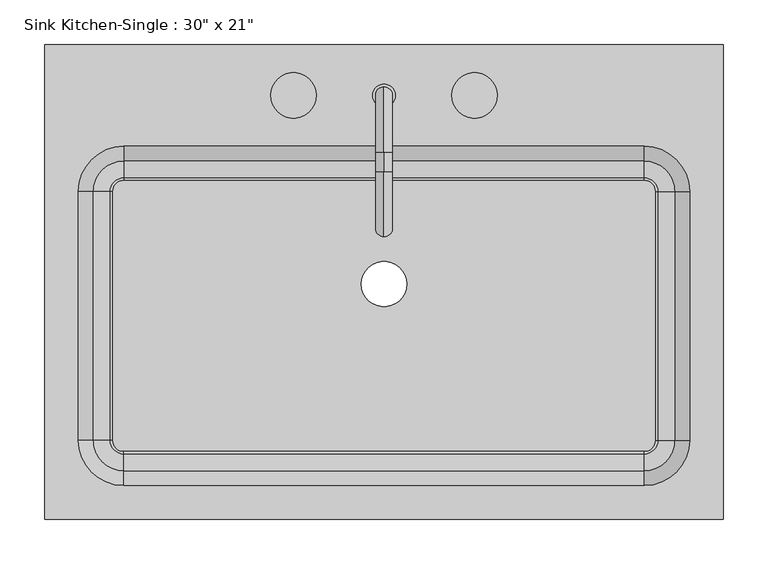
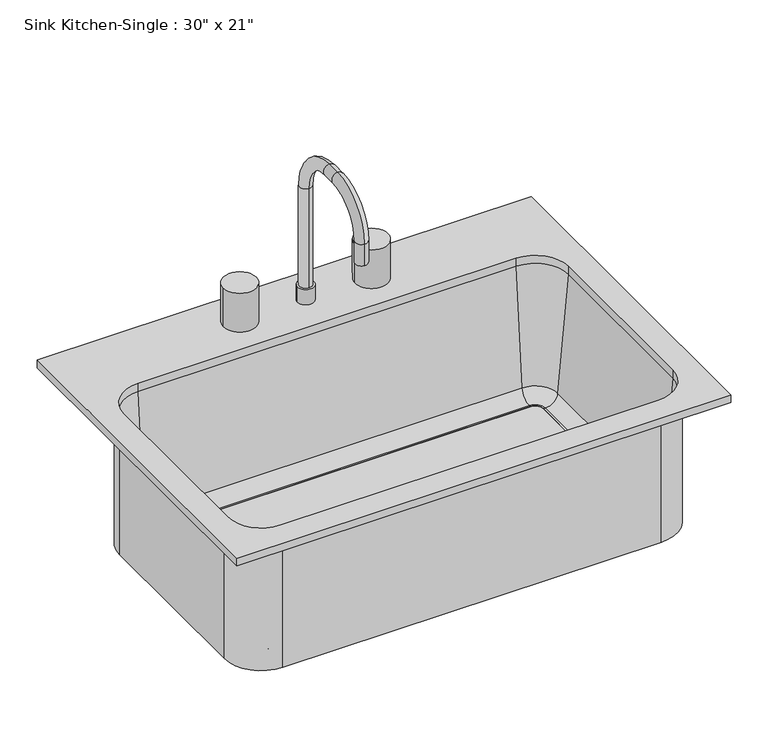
"""IFC4 building model written with IfcOpenShell, lengths in millimetres: flow terminal geometry."""

from ifc_helpers import new_model, si_unit, point, frame, frame_2d, origin, place, context, project, spatial, polyline, circle_curve, ellipse_curve, trimmed, segment, composite_curve, outline, extrude, source, transform, mapped, element, save
from ifc_brep_helpers import plane_surface, cylinder_surface, revolved_surface, advanced_brep


def flow_terminal_38af2918(model_context):
    return source(origin(), model_context, "Body", "SolidModel", [
        advanced_brep(
        [(396.6892406, 269.0454011, 927.1), (-365.3107594, 269.0454011, 927.1), (-365.3107594, -264.3545989, 927.1), (396.6892406, -264.3545989, 927.1), (307.7892406, 154.7454011, 927.1), (358.5892406, 103.9454011, 927.1), (358.5892406, -175.4545989, 927.1), (307.7892406, -226.2545989, 927.1), (-276.4107594, -226.2545989, 927.1), (-327.2107594, -175.4545989, 927.1), (-327.2107594, 103.9454011, 927.1), (-276.4107594, 154.7454011, 927.1), (396.6892406, 269.0454011, 914.4), (396.6892406, -264.3545989, 914.4), (-365.3107594, -264.3545989, 914.4), (-365.3107594, 269.0454011, 914.4), (364.9392406, 103.9454011, 914.4), (307.7892406, 161.0954011, 914.4), (-276.4107594, 161.0954011, 914.4), (-333.5607594, 103.9454011, 914.4), (-333.5607594, -175.4545989, 914.4), (-276.4107594, -232.6045989, 914.4), (307.7892406, -232.6045989, 914.4), (364.9392406, -175.4545989, 914.4), (307.7892406, 154.7454011, 914.4), (358.5892406, 103.9454011, 914.4), (358.5892406, -175.4545989, 914.4), (307.7892406, -226.2545989, 914.4), (-276.4107594, -226.2545989, 914.4), (-327.2107594, -175.4545989, 914.4), (-327.2107594, 103.9454011, 914.4), (-276.4107594, 154.7454011, 914.4), (364.9392406, 103.9454011, 698.5), (307.7892406, 161.0954011, 698.5), (320.4892406, 103.9454011, 698.5), (307.7892406, 116.6454011, 698.5), (320.4892406, 103.9454011, 708.025), (307.7892406, 116.6454011, 708.025), (323.0776588, 103.9454011, 708.025), (307.7892406, 119.2338193, 708.025), (342.0551678, 103.9454011, 725.4146831), (307.7892406, 138.2113283, 725.4146831), (364.9392406, -175.4545989, 698.5), (320.4892406, -175.4545989, 698.5), (320.4892406, -175.4545989, 708.025), (323.0776588, -175.4545989, 708.025), (342.0551678, -175.4545989, 725.4146831), (307.7892406, -232.6045989, 698.5), (307.7892406, -188.1545989, 698.5), (307.7892406, -188.1545989, 708.025), (307.7892406, -190.7430171, 708.025), (307.7892406, -209.7205261, 725.4146831), (-276.4107594, -232.6045989, 698.5), (-276.4107594, -188.1545989, 698.5), (-276.4107594, -188.1545989, 708.025), (-276.4107594, -190.7430171, 708.025), (-276.4107594, -209.7205261, 725.4146831), (-333.5607594, -175.4545989, 698.5), (-289.1107594, -175.4545989, 698.5), (-289.1107594, -175.4545989, 708.025), (-291.6991776, -175.4545989, 708.025), (-310.6766866, -175.4545989, 725.4146831), (-333.5607594, 103.9454011, 698.5), (-289.1107594, 103.9454011, 698.5), (-289.1107594, 103.9454011, 708.025), (-291.6991776, 103.9454011, 708.025), (-310.6766866, 103.9454011, 725.4146831), (-276.4107594, 161.0954011, 698.5), (-276.4107594, 116.6454011, 698.5), (-276.4107594, 116.6454011, 708.025), (-276.4107594, 119.2338193, 708.025), (-276.4107594, 138.2113283, 725.4146831)],
        [
            (0, 1),
            (1, 2),
            (2, 3),
            (3, 0),
            (4, 5, circle_curve(frame((307.7892406, 103.9454011, 927.1), z_axis=(0.0, 0.0, -1.0), x_axis=(1.0, 0.0, 0.0)), 50.8)),
            (5, 6),
            (6, 7, circle_curve(frame((307.7892406, -175.4545989, 927.1), z_axis=(0.0, 0.0, -1.0), x_axis=(1.0, 0.0, 0.0)), 50.8)),
            (7, 8),
            (8, 9, circle_curve(frame((-276.4107594, -175.4545989, 927.1), z_axis=(0.0, 0.0, -1.0), x_axis=(1.0, 0.0, 0.0)), 50.8)),
            (9, 10),
            (10, 11, circle_curve(frame((-276.4107594, 103.9454011, 927.1), z_axis=(0.0, 0.0, -1.0), x_axis=(1.0, 0.0, 0.0)), 50.8)),
            (11, 4),
            (12, 13),
            (13, 14),
            (14, 15),
            (15, 12),
            (16, 17, circle_curve(frame((307.7892406, 103.9454011, 914.4), z_axis=(0.0, 0.0, 1.0), x_axis=(0.0, 1.0, 0.0)), 57.15)),
            (17, 18),
            (18, 19, circle_curve(frame((-276.4107594, 103.9454011, 914.4), z_axis=(0.0, 0.0, 1.0), x_axis=(-1.0, 0.0, 0.0)), 57.15)),
            (19, 20),
            (20, 21, circle_curve(frame((-276.4107594, -175.4545989, 914.4), z_axis=(0.0, 0.0, 1.0), x_axis=(0.0, -1.0, 0.0)), 57.15)),
            (21, 22),
            (22, 23, circle_curve(frame((307.7892406, -175.4545989, 914.4), z_axis=(0.0, 0.0, 1.0), x_axis=(1.0, 0.0, 0.0)), 57.15)),
            (23, 16),
            (0, 12),
            (15, 1),
            (14, 2),
            (13, 3),
            (4, 24),
            (24, 25, circle_curve(frame((307.7892406, 103.9454011, 914.4), z_axis=(0.0, 0.0, -1.0), x_axis=(1.0, 0.0, 0.0)), 50.8)),
            (25, 5),
            (25, 26),
            (26, 6),
            (26, 27, circle_curve(frame((307.7892406, -175.4545989, 914.4), z_axis=(0.0, 0.0, -1.0), x_axis=(1.0, 0.0, 0.0)), 50.8)),
            (27, 7),
            (27, 28),
            (28, 8),
            (28, 29, circle_curve(frame((-276.4107594, -175.4545989, 914.4), z_axis=(0.0, 0.0, -1.0), x_axis=(1.0, 0.0, 0.0)), 50.8)),
            (29, 9),
            (29, 30),
            (30, 10),
            (30, 31, circle_curve(frame((-276.4107594, 103.9454011, 914.4), z_axis=(0.0, 0.0, -1.0), x_axis=(1.0, 0.0, 0.0)), 50.8)),
            (31, 11),
            (31, 24),
            (32, 33, circle_curve(frame((307.7892406, 103.9454011, 698.5), z_axis=(0.0, 0.0, 1.0), x_axis=(0.0, 1.0, 0.0)), 57.15)),
            (33, 17),
            (16, 32),
            (32, 34),
            (34, 35, circle_curve(frame((307.7892406, 103.9454011, 698.5), z_axis=(0.0, 0.0, 1.0), x_axis=(0.0, 1.0, 0.0)), 12.7)),
            (35, 33),
            (34, 36),
            (36, 37, circle_curve(frame((307.7892406, 103.9454011, 708.025), z_axis=(0.0, 0.0, 1.0), x_axis=(0.0, 1.0, 0.0)), 12.7)),
            (37, 35),
            (36, 38),
            (38, 39, circle_curve(frame((307.7892406, 103.9454011, 708.025), z_axis=(0.0, 0.0, 1.0), x_axis=(0.0, 1.0, 0.0)), 15.2884182)),
            (39, 37),
            (38, 40, circle_curve(frame((323.0776588, 103.9454011, 727.075), z_axis=(0.0, -1.0, 0.0), x_axis=(1.0, 0.0, 0.0)), 19.05)),
            (40, 41, circle_curve(frame((307.7892406, 103.9454011, 725.4146831), z_axis=(0.0, 0.0, 1.0), x_axis=(0.0, 1.0, 0.0)), 34.2659272)),
            (41, 39, circle_curve(frame((307.7892406, 119.2338193, 727.075), z_axis=(-1.0, 0.0, 0.0), x_axis=(0.0, 1.0, 0.0)), 19.05)),
            (40, 25),
            (24, 41),
            (23, 42),
            (42, 32),
            (42, 43),
            (43, 34),
            (43, 44),
            (44, 36),
            (44, 45),
            (45, 38),
            (45, 46, circle_curve(frame((323.0776588, -175.4545989, 727.075), z_axis=(0.0, -1.0, 0.0), x_axis=(1.0, 0.0, 0.0)), 19.05)),
            (46, 40),
            (46, 26),
            (22, 47),
            (47, 42, circle_curve(frame((307.7892406, -175.4545989, 698.5), z_axis=(0.0, 0.0, 1.0), x_axis=(1.0, 0.0, 0.0)), 57.15)),
            (47, 48),
            (48, 43, circle_curve(frame((307.7892406, -175.4545989, 698.5), z_axis=(0.0, 0.0, 1.0), x_axis=(1.0, 0.0, 0.0)), 12.7)),
            (48, 49),
            (49, 44, circle_curve(frame((307.7892406, -175.4545989, 708.025), z_axis=(0.0, 0.0, 1.0), x_axis=(1.0, 0.0, 0.0)), 12.7)),
            (49, 50),
            (50, 45, circle_curve(frame((307.7892406, -175.4545989, 708.025), z_axis=(0.0, 0.0, 1.0), x_axis=(1.0, 0.0, 0.0)), 15.2884182)),
            (50, 51, circle_curve(frame((307.7892406, -190.7430171, 727.075), z_axis=(-1.0, 0.0, 0.0), x_axis=(0.0, -1.0, 0.0)), 19.05)),
            (51, 46, circle_curve(frame((307.7892406, -175.4545989, 725.4146831), z_axis=(0.0, 0.0, 1.0), x_axis=(1.0, 0.0, 0.0)), 34.2659272)),
            (51, 27),
            (21, 52),
            (52, 47),
            (52, 53),
            (53, 48),
            (53, 54),
            (54, 49),
            (54, 55),
            (55, 50),
            (55, 56, circle_curve(frame((-276.4107594, -190.7430171, 727.075), z_axis=(-1.0, 0.0, 0.0), x_axis=(0.0, -1.0, 0.0)), 19.05)),
            (56, 51),
            (56, 28),
            (20, 57),
            (57, 52, circle_curve(frame((-276.4107594, -175.4545989, 698.5), z_axis=(0.0, 0.0, 1.0), x_axis=(0.0, -1.0, 0.0)), 57.15)),
            (57, 58),
            (58, 53, circle_curve(frame((-276.4107594, -175.4545989, 698.5), z_axis=(0.0, 0.0, 1.0), x_axis=(0.0, -1.0, 0.0)), 12.7)),
            (58, 59),
            (59, 54, circle_curve(frame((-276.4107594, -175.4545989, 708.025), z_axis=(0.0, 0.0, 1.0), x_axis=(0.0, -1.0, 0.0)), 12.7)),
            (59, 60),
            (60, 55, circle_curve(frame((-276.4107594, -175.4545989, 708.025), z_axis=(0.0, 0.0, 1.0), x_axis=(0.0, -1.0, 0.0)), 15.2884182)),
            (60, 61, circle_curve(frame((-291.6991776, -175.4545989, 727.075), z_axis=(0.0, 1.0, 0.0), x_axis=(-1.0, 0.0, 0.0)), 19.05)),
            (61, 56, circle_curve(frame((-276.4107594, -175.4545989, 725.4146831), z_axis=(0.0, 0.0, 1.0), x_axis=(0.0, -1.0, 0.0)), 34.2659272)),
            (61, 29),
            (19, 62),
            (62, 57),
            (62, 63),
            (63, 58),
            (63, 64),
            (64, 59),
            (64, 65),
            (65, 60),
            (65, 66, circle_curve(frame((-291.6991776, 103.9454011, 727.075), z_axis=(0.0, 1.0, 0.0), x_axis=(-1.0, 0.0, 0.0)), 19.05)),
            (66, 61),
            (66, 30),
            (18, 67),
            (67, 62, circle_curve(frame((-276.4107594, 103.9454011, 698.5), z_axis=(0.0, 0.0, 1.0), x_axis=(-1.0, 0.0, 0.0)), 57.15)),
            (67, 68),
            (68, 63, circle_curve(frame((-276.4107594, 103.9454011, 698.5), z_axis=(0.0, 0.0, 1.0), x_axis=(-1.0, 0.0, 0.0)), 12.7)),
            (68, 69),
            (69, 64, circle_curve(frame((-276.4107594, 103.9454011, 708.025), z_axis=(0.0, 0.0, 1.0), x_axis=(-1.0, 0.0, 0.0)), 12.7)),
            (69, 70),
            (70, 65, circle_curve(frame((-276.4107594, 103.9454011, 708.025), z_axis=(0.0, 0.0, 1.0), x_axis=(-1.0, 0.0, 0.0)), 15.2884182)),
            (70, 71, circle_curve(frame((-276.4107594, 119.2338193, 727.075), z_axis=(1.0, 0.0, 0.0), x_axis=(0.0, 1.0, 0.0)), 19.05)),
            (71, 66, circle_curve(frame((-276.4107594, 103.9454011, 725.4146831), z_axis=(0.0, 0.0, 1.0), x_axis=(-1.0, 0.0, 0.0)), 34.2659272)),
            (71, 31),
            (33, 67),
            (35, 68),
            (37, 69),
            (39, 70),
            (41, 71),
        ],
        [
            plane_surface(frame((-365.3107594, 269.0454011, 927.1), z_axis=(0.0, 0.0, 1.0), x_axis=(-1.0, 0.0, 0.0))),
            plane_surface(frame((-365.3107594, 269.0454011, 914.4), z_axis=(0.0, 0.0, -1.0), x_axis=(1.0, 0.0, 0.0))),
            plane_surface(frame((396.6892406, 269.0454011, 927.1), z_axis=(0.0, 1.0, 0.0), x_axis=(0.0, 0.0, -1.0))),
            plane_surface(frame((-365.3107594, 269.0454011, 927.1), z_axis=(-1.0, 0.0, 0.0), x_axis=(0.0, 0.0, -1.0))),
            plane_surface(frame((-365.3107594, -264.3545989, 927.1), z_axis=(0.0, -1.0, 0.0), x_axis=(0.0, 0.0, -1.0))),
            plane_surface(frame((396.6892406, -264.3545989, 927.1), z_axis=(1.0, 0.0, 0.0), x_axis=(0.0, 0.0, -1.0))),
            revolved_surface(polyline([(358.58924060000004, 103.9454011, 914.4), (358.58924060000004, 103.9454011, 927.1)]), (307.7892406, 103.9454011, 0.0), (0.0, 0.0, -1.0)),
            plane_surface(frame((358.5892406, 103.9454011, 927.1), z_axis=(-1.0, 0.0, 0.0), x_axis=(0.0, 0.0, -1.0))),
            revolved_surface(polyline([(358.58924060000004, -175.4545989, 914.4), (358.58924060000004, -175.4545989, 927.1)]), (307.7892406, -175.4545989, 0.0), (0.0, 0.0, -1.0)),
            plane_surface(frame((307.7892406, -226.2545989, 927.1), z_axis=(0.0, 1.0, 0.0), x_axis=(0.0, 0.0, -1.0))),
            revolved_surface(polyline([(-225.6107594, -175.4545989, 914.4), (-225.6107594, -175.4545989, 927.1)]), (-276.4107594, -175.4545989, 0.0), (0.0, 0.0, -1.0)),
            plane_surface(frame((-327.2107594, -175.4545989, 927.1), z_axis=(1.0, 0.0, 0.0), x_axis=(0.0, 0.0, -1.0))),
            revolved_surface(polyline([(-225.6107594, 103.9454011, 914.4), (-225.6107594, 103.9454011, 927.1)]), (-276.4107594, 103.9454011, 0.0), (0.0, 0.0, -1.0)),
            plane_surface(frame((-276.4107594, 154.7454011, 927.1), z_axis=(0.0, -1.0, 0.0), x_axis=(0.0, 0.0, -1.0))),
            cylinder_surface(frame((307.7892406, 103.9454011, 0.0), z_axis=(0.0, 0.0, -1.0), x_axis=(0.0, 1.0, 0.0)), 57.15),
            plane_surface(frame((307.7892406, 103.9454011, 698.5), z_axis=(0.0, 0.0, -1.0), x_axis=(0.0, 1.0, 0.0))),
            revolved_surface(polyline([(307.7892406, 116.6454011, 698.5), (307.7892406, 116.6454011, 708.025)]), (307.7892406, 103.9454011, 0.0), (0.0, 0.0, -1.0)),
            plane_surface(frame((307.7892406, 103.9454011, 708.025), z_axis=(0.0, 0.0, 1.0), x_axis=(0.0, 1.0, 0.0))),
            revolved_surface(trimmed(ellipse_curve(frame((307.7892406, 119.2338193, 727.075), z_axis=(1.0, 0.0, 0.0), x_axis=(0.0, 1.0, 0.0)), 19.05, 19.05), [point((307.7892406, 119.2338193, 708.025))], [point((307.7892406, 138.2113283, 725.4146831))], True, "CARTESIAN"), (307.7892406, 103.9454011, 0.0), (0.0, 0.0, -1.0)),
            revolved_surface(polyline([(307.7892406, 138.2113283, 725.4146831), (307.7892406, 154.7454011, 914.4)]), (307.7892406, 103.9454011, 0.0), (0.0, 0.0, -1.0)),
            plane_surface(frame((364.9392406, 103.9454011, 914.4), z_axis=(1.0, 0.0, 0.0), x_axis=(0.0, -1.0, 0.0))),
            plane_surface(frame((364.9392406, 103.9454011, 698.5), z_axis=(0.0, 0.0, -1.0), x_axis=(0.0, -1.0, 0.0))),
            plane_surface(frame((320.4892406, 103.9454011, 698.5), z_axis=(-1.0, 0.0, 0.0), x_axis=(0.0, -1.0, 0.0))),
            plane_surface(frame((320.4892406, 103.9454011, 708.025), z_axis=(0.0, 0.0, 1.0), x_axis=(0.0, -1.0, 0.0))),
            revolved_surface(polyline([(342.1276588, -175.45459889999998, 727.075), (342.1276588, 103.9454011, 727.075)]), (323.0776588, 103.9454011, 727.075), (0.0, -1.0, 0.0)),
            plane_surface(frame((342.0551678, 103.9454011, 725.4146831), z_axis=(-0.9961946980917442, 0.0, 0.08715574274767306), x_axis=(0.0, -1.0, 0.0))),
            cylinder_surface(frame((307.7892406, -175.4545989, 0.0), z_axis=(0.0, 0.0, -1.0), x_axis=(1.0, 0.0, 0.0)), 57.15),
            plane_surface(frame((307.7892406, -175.4545989, 698.5), z_axis=(0.0, 0.0, -1.0), x_axis=(1.0, 0.0, 0.0))),
            revolved_surface(polyline([(320.4892406, -175.4545989, 698.5), (320.4892406, -175.4545989, 708.025)]), (307.7892406, -175.4545989, 0.0), (0.0, 0.0, -1.0)),
            plane_surface(frame((307.7892406, -175.4545989, 708.025), z_axis=(0.0, 0.0, 1.0), x_axis=(1.0, 0.0, 0.0))),
            revolved_surface(trimmed(ellipse_curve(frame((323.0776588, -175.4545989, 727.075), z_axis=(0.0, -1.0, 0.0), x_axis=(1.0, 0.0, 0.0)), 19.05, 19.05), [point((323.0776588, -175.4545989, 708.025))], [point((342.0551678, -175.4545989, 725.4146831))], True, "CARTESIAN"), (307.7892406, -175.4545989, 0.0), (0.0, 0.0, -1.0)),
            revolved_surface(polyline([(342.0551678, -175.4545989, 725.4146831), (358.5892406, -175.4545989, 914.4)]), (307.7892406, -175.4545989, 0.0), (0.0, 0.0, -1.0)),
            plane_surface(frame((307.7892406, -232.6045989, 914.4), z_axis=(0.0, -1.0, 0.0), x_axis=(-1.0, 0.0, 0.0))),
            plane_surface(frame((307.7892406, -232.6045989, 698.5), z_axis=(0.0, 0.0, -1.0), x_axis=(-1.0, 0.0, 0.0))),
            plane_surface(frame((307.7892406, -188.1545989, 698.5), z_axis=(0.0, 1.0, 0.0), x_axis=(-1.0, 0.0, 0.0))),
            plane_surface(frame((307.7892406, -188.1545989, 708.025), z_axis=(0.0, 0.0, 1.0), x_axis=(-1.0, 0.0, 0.0))),
            revolved_surface(polyline([(-276.4107594, -209.79301710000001, 727.075), (307.7892406, -209.79301710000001, 727.075)]), (307.7892406, -190.7430171, 727.075), (-1.0, 0.0, 0.0)),
            plane_surface(frame((307.7892406, -209.7205261, 725.4146831), z_axis=(0.0, 0.9961946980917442, 0.08715574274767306), x_axis=(-1.0, 0.0, 0.0))),
            cylinder_surface(frame((-276.4107594, -175.4545989, 0.0), z_axis=(0.0, 0.0, -1.0), x_axis=(0.0, -1.0, 0.0)), 57.15),
            plane_surface(frame((-276.4107594, -175.4545989, 698.5), z_axis=(0.0, 0.0, -1.0), x_axis=(0.0, -1.0, 0.0))),
            revolved_surface(polyline([(-276.4107594, -188.1545989, 698.5), (-276.4107594, -188.1545989, 708.025)]), (-276.4107594, -175.4545989, 0.0), (0.0, 0.0, -1.0)),
            plane_surface(frame((-276.4107594, -175.4545989, 708.025), z_axis=(0.0, 0.0, 1.0), x_axis=(0.0, -1.0, 0.0))),
            revolved_surface(trimmed(ellipse_curve(frame((-276.4107594, -190.7430171, 727.075), z_axis=(-1.0, 0.0, 0.0), x_axis=(0.0, -1.0, 0.0)), 19.05, 19.05), [point((-276.4107594, -190.7430171, 708.025))], [point((-276.4107594, -209.7205261, 725.4146831))], True, "CARTESIAN"), (-276.4107594, -175.4545989, 0.0), (0.0, 0.0, -1.0)),
            revolved_surface(polyline([(-276.4107594, -209.7205261, 725.4146831), (-276.4107594, -226.2545989, 914.4)]), (-276.4107594, -175.4545989, 0.0), (0.0, 0.0, -1.0)),
            plane_surface(frame((-333.5607594, -175.4545989, 914.4), z_axis=(-1.0, 0.0, 0.0), x_axis=(0.0, 1.0, 0.0))),
            plane_surface(frame((-333.5607594, -175.4545989, 698.5), z_axis=(0.0, 0.0, -1.0), x_axis=(0.0, 1.0, 0.0))),
            plane_surface(frame((-289.1107594, -175.4545989, 698.5), z_axis=(1.0, 0.0, 0.0), x_axis=(0.0, 1.0, 0.0))),
            plane_surface(frame((-289.1107594, -175.4545989, 708.025), z_axis=(0.0, 0.0, 1.0), x_axis=(0.0, 1.0, 0.0))),
            revolved_surface(polyline([(-310.7491776, 103.94540109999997, 727.075), (-310.7491776, -175.4545989, 727.075)]), (-291.6991776, -175.4545989, 727.075), (0.0, 1.0, 0.0)),
            plane_surface(frame((-310.6766866, -175.4545989, 725.4146831), z_axis=(0.9961946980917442, 0.0, 0.08715574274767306), x_axis=(0.0, 1.0, 0.0))),
            cylinder_surface(frame((-276.4107594, 103.9454011, 0.0), z_axis=(0.0, 0.0, -1.0), x_axis=(-1.0, 0.0, 0.0)), 57.15),
            plane_surface(frame((-276.4107594, 103.9454011, 698.5), z_axis=(0.0, 0.0, -1.0), x_axis=(-1.0, 0.0, 0.0))),
            revolved_surface(polyline([(-289.1107594, 103.9454011, 698.5), (-289.1107594, 103.9454011, 708.025)]), (-276.4107594, 103.9454011, 0.0), (0.0, 0.0, -1.0)),
            plane_surface(frame((-276.4107594, 103.9454011, 708.025), z_axis=(0.0, 0.0, 1.0), x_axis=(-1.0, 0.0, 0.0))),
            revolved_surface(trimmed(ellipse_curve(frame((-291.6991776, 103.9454011, 727.075), z_axis=(0.0, 1.0, 0.0), x_axis=(-1.0, 0.0, 0.0)), 19.05, 19.05), [point((-291.6991776, 103.9454011, 708.025))], [point((-310.6766866, 103.9454011, 725.4146831))], True, "CARTESIAN"), (-276.4107594, 103.9454011, 0.0), (0.0, 0.0, -1.0)),
            revolved_surface(polyline([(-310.6766866, 103.9454011, 725.4146831), (-327.2107594, 103.9454011, 914.4)]), (-276.4107594, 103.9454011, 0.0), (0.0, 0.0, -1.0)),
            plane_surface(frame((-276.4107594, 161.0954011, 914.4), z_axis=(0.0, 1.0, 0.0), x_axis=(1.0, 0.0, 0.0))),
            plane_surface(frame((-276.4107594, 161.0954011, 698.5), z_axis=(0.0, 0.0, -1.0), x_axis=(1.0, 0.0, 0.0))),
            plane_surface(frame((-276.4107594, 116.6454011, 698.5), z_axis=(0.0, -1.0, 0.0), x_axis=(1.0, 0.0, 0.0))),
            plane_surface(frame((-276.4107594, 116.6454011, 708.025), z_axis=(0.0, 0.0, 1.0), x_axis=(1.0, 0.0, 0.0))),
            revolved_surface(polyline([(307.7892406, 138.2838193, 727.075), (-276.4107594, 138.2838193, 727.075)]), (-276.4107594, 119.2338193, 727.075), (1.0, 0.0, 0.0)),
            plane_surface(frame((-276.4107594, 138.2113283, 725.4146831), z_axis=(0.0, -0.9961946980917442, 0.08715574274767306), x_axis=(1.0, 0.0, 0.0))),
        ],
        [
            (0, [[1, 2, 3, 4], [5, 6, 7, 8, 9, 10, 11, 12]]),
            (1, [[13, 14, 15, 16], [17, 18, 19, 20, 21, 22, 23, 24]]),
            (2, [[-1, 25, -16, 26]]),
            (3, [[-2, -26, -15, 27]]),
            (4, [[-3, -27, -14, 28]]),
            (5, [[-4, -28, -13, -25]]),
            (6, [[-5, 29, 30, 31]]),
            (7, [[-6, -31, 32, 33]]),
            (8, [[-7, -33, 34, 35]]),
            (9, [[-8, -35, 36, 37]]),
            (10, [[-9, -37, 38, 39]]),
            (11, [[-10, -39, 40, 41]]),
            (12, [[-11, -41, 42, 43]]),
            (13, [[-12, -43, 44, -29]]),
            (14, [[45, 46, -17, 47]]),
            (15, [[-45, 48, 49, 50]]),
            (16, [[-49, 51, 52, 53]]),
            (17, [[-52, 54, 55, 56]]),
            (18, [[-55, 57, 58, 59]]),
            (19, [[-58, 60, -30, 61]]),
            (20, [[-47, -24, 62, 63]]),
            (21, [[-48, -63, 64, 65]]),
            (22, [[-51, -65, 66, 67]]),
            (23, [[-54, -67, 68, 69]]),
            (24, [[-57, -69, 70, 71]]),
            (25, [[-60, -71, 72, -32]]),
            (26, [[-62, -23, 73, 74]]),
            (27, [[-64, -74, 75, 76]]),
            (28, [[-66, -76, 77, 78]]),
            (29, [[-68, -78, 79, 80]]),
            (30, [[-70, -80, 81, 82]]),
            (31, [[-72, -82, 83, -34]]),
            (32, [[-73, -22, 84, 85]]),
            (33, [[-75, -85, 86, 87]]),
            (34, [[-77, -87, 88, 89]]),
            (35, [[-79, -89, 90, 91]]),
            (36, [[-81, -91, 92, 93]]),
            (37, [[-83, -93, 94, -36]]),
            (38, [[-84, -21, 95, 96]]),
            (39, [[-86, -96, 97, 98]]),
            (40, [[-88, -98, 99, 100]]),
            (41, [[-90, -100, 101, 102]]),
            (42, [[-92, -102, 103, 104]]),
            (43, [[-94, -104, 105, -38]]),
            (44, [[-95, -20, 106, 107]]),
            (45, [[-97, -107, 108, 109]]),
            (46, [[-99, -109, 110, 111]]),
            (47, [[-101, -111, 112, 113]]),
            (48, [[-103, -113, 114, 115]]),
            (49, [[-105, -115, 116, -40]]),
            (50, [[-106, -19, 117, 118]]),
            (51, [[-108, -118, 119, 120]]),
            (52, [[-110, -120, 121, 122]]),
            (53, [[-112, -122, 123, 124]]),
            (54, [[-114, -124, 125, 126]]),
            (55, [[-116, -126, 127, -42]]),
            (56, [[-46, 128, -117, -18]]),
            (57, [[-50, 129, -119, -128]]),
            (58, [[-53, 130, -121, -129]]),
            (59, [[-56, 131, -123, -130]]),
            (60, [[-59, 132, -125, -131]]),
            (61, [[-61, -44, -127, -132]]),
        ],
    ),
        advanced_brep(
        [(2.9892406, 211.8954011, 927.1), (28.3892406, 211.8954011, 927.1), (15.6892406, 221.4204011, 1114.425), (15.6892406, 202.3704011, 1114.425), (15.6892406, 202.3704011, 952.5), (15.6892406, 221.4204011, 952.5), (15.6892406, 148.3954011, 1187.45), (15.6892406, 148.3954011, 1168.4), (15.6892406, 126.1704011, 1187.45), (15.6892406, 126.1704011, 1168.4), (15.6892406, 53.1454011, 1114.425), (15.6892406, 72.1954011, 1114.425), (15.6892406, 53.1454011, 1079.5), (15.6892406, 72.1954011, 1079.5), (2.9892406, 211.8954011, 952.5), (28.3892406, 211.8954011, 952.5)],
        [
            (0, 1, circle_curve(frame((15.6892406, 211.8954011, 927.1), z_axis=(0.0, 0.0, -1.0), x_axis=(1.0, 0.0, 0.0)), 12.7)),
            (1, 0, circle_curve(frame((15.6892406, 211.8954011, 927.1), z_axis=(0.0, 0.0, -1.0), x_axis=(1.0, 0.0, 0.0)), 12.7)),
            (2, 3, circle_curve(frame((15.6892406, 211.8954011, 1114.425), z_axis=(0.0, 0.0, -1.0), x_axis=(0.0, -1.0, 0.0)), 9.525)),
            (3, 4),
            (4, 5, circle_curve(frame((15.6892406, 211.8954011, 952.5), z_axis=(0.0, 0.0, 1.0), x_axis=(0.0, -1.0, 0.0)), 9.525)),
            (5, 2),
            (3, 2, circle_curve(frame((15.6892406, 211.8954011, 1114.425), z_axis=(0.0, 0.0, -1.0), x_axis=(0.0, -1.0, 0.0)), 9.525)),
            (5, 4, circle_curve(frame((15.6892406, 211.8954011, 952.5), z_axis=(0.0, 0.0, 1.0), x_axis=(0.0, -1.0, 0.0)), 9.525)),
            (2, 6, circle_curve(frame((15.6892406, 148.3954011, 1114.425), z_axis=(1.0, 0.0, 0.0), x_axis=(0.0, 1.0, 0.0)), 73.025)),
            (6, 7, circle_curve(frame((15.6892406, 148.3954011, 1177.925), z_axis=(0.0, 1.0, 0.0), x_axis=(0.0, 0.0, -1.0)), 9.525)),
            (7, 3, circle_curve(frame((15.6892406, 148.3954011, 1114.425), z_axis=(-1.0, 0.0, 0.0), x_axis=(0.0, 1.0, 0.0)), 53.975)),
            (7, 6, circle_curve(frame((15.6892406, 148.3954011, 1177.925), z_axis=(0.0, 1.0, 0.0), x_axis=(0.0, 0.0, -1.0)), 9.525)),
            (6, 8),
            (8, 9, circle_curve(frame((15.6892406, 126.1704011, 1177.925), z_axis=(0.0, 1.0, 0.0), x_axis=(0.0, 0.0, -1.0)), 9.525)),
            (9, 7),
            (9, 8, circle_curve(frame((15.6892406, 126.1704011, 1177.925), z_axis=(0.0, 1.0, 0.0), x_axis=(0.0, 0.0, -1.0)), 9.525)),
            (8, 10, circle_curve(frame((15.6892406, 126.1704011, 1114.425), z_axis=(1.0, 0.0, 0.0), x_axis=(0.0, 0.0, 1.0)), 73.025)),
            (10, 11, circle_curve(frame((15.6892406, 62.6704011, 1114.425), z_axis=(0.0, 0.0, 1.0), x_axis=(0.0, 1.0, 0.0)), 9.525)),
            (11, 9, circle_curve(frame((15.6892406, 126.1704011, 1114.425), z_axis=(-1.0, 0.0, 0.0), x_axis=(0.0, 0.0, 1.0)), 53.975)),
            (11, 10, circle_curve(frame((15.6892406, 62.6704011, 1114.425), z_axis=(0.0, 0.0, 1.0), x_axis=(0.0, 1.0, 0.0)), 9.525)),
            (12, 13, circle_curve(frame((15.6892406, 62.6704011, 1079.5), z_axis=(0.0, 0.0, -1.0), x_axis=(0.0, 1.0, 0.0)), 9.525)),
            (13, 12, circle_curve(frame((15.6892406, 62.6704011, 1079.5), z_axis=(0.0, 0.0, -1.0), x_axis=(0.0, 1.0, 0.0)), 9.525)),
            (10, 12),
            (13, 11),
            (14, 15, circle_curve(frame((15.6892406, 211.8954011, 952.5), z_axis=(0.0, 0.0, 1.0), x_axis=(1.0, 0.0, 0.0)), 12.7)),
            (15, 14, circle_curve(frame((15.6892406, 211.8954011, 952.5), z_axis=(0.0, 0.0, 1.0), x_axis=(1.0, 0.0, 0.0)), 12.7)),
            (14, 0),
            (1, 15),
        ],
        [
            plane_surface(frame((15.6892406, 202.3704011, 927.1), z_axis=(0.0, 0.0, -1.0), x_axis=(1.0, 0.0, 0.0))),
            cylinder_surface(frame((15.6892406, 211.8954011, 927.1), z_axis=(0.0, 0.0, -1.0), x_axis=(0.0, -1.0, 0.0)), 9.525),
            revolved_surface(trimmed(ellipse_curve(frame((15.6892406, 211.8954011, 1114.425), z_axis=(0.0, 0.0, -1.0), x_axis=(0.0, -1.0, 0.0)), 9.525, 9.525), [point((15.6892406, 221.4204011, 1114.425))], [point((15.6892406, 202.3704011, 1114.425))], True, "CARTESIAN"), (15.6892406, 148.3954011, 1114.425), (1.0, 0.0, 0.0)),
            revolved_surface(trimmed(ellipse_curve(frame((15.6892406, 211.8954011, 1114.425), z_axis=(0.0, 0.0, -1.0), x_axis=(0.0, -1.0, 0.0)), 9.525, 9.525), [point((15.6892406, 202.3704011, 1114.425))], [point((15.6892406, 221.4204011, 1114.425))], True, "CARTESIAN"), (15.6892406, 148.3954011, 1114.425), (1.0, 0.0, 0.0)),
            cylinder_surface(frame((15.6892406, 148.3954011, 1177.925), z_axis=(0.0, 1.0, 0.0), x_axis=(0.0, 0.0, -1.0)), 9.525),
            revolved_surface(trimmed(ellipse_curve(frame((15.6892406, 126.1704011, 1177.925), z_axis=(0.0, 1.0, 0.0), x_axis=(0.0, 0.0, -1.0)), 9.525, 9.525), [point((15.6892406, 126.1704011, 1187.45))], [point((15.6892406, 126.1704011, 1168.4))], True, "CARTESIAN"), (15.6892406, 126.1704011, 1114.425), (1.0, 0.0, 0.0)),
            revolved_surface(trimmed(ellipse_curve(frame((15.6892406, 126.1704011, 1177.925), z_axis=(0.0, 1.0, 0.0), x_axis=(0.0, 0.0, -1.0)), 9.525, 9.525), [point((15.6892406, 126.1704011, 1168.4))], [point((15.6892406, 126.1704011, 1187.45))], True, "CARTESIAN"), (15.6892406, 126.1704011, 1114.425), (1.0, 0.0, 0.0)),
            plane_surface(frame((15.6892406, 53.1454011, 1079.5), z_axis=(0.0, 0.0, -1.0), x_axis=(-1.0, 0.0, 0.0))),
            cylinder_surface(frame((15.6892406, 62.6704011, 1114.425), z_axis=(0.0, 0.0, 1.0), x_axis=(0.0, 1.0, 0.0)), 9.525),
            plane_surface(frame((28.3892406, 211.8954011, 952.5), z_axis=(0.0, 0.0, 1.0), x_axis=(0.0, 1.0, 0.0))),
            cylinder_surface(frame((15.6892406, 211.8954011, 927.1), z_axis=(0.0, 0.0, 1.0), x_axis=(1.0, 0.0, 0.0)), 12.7),
        ],
        [
            (0, [[1, 2]]),
            (1, [[3, 4, 5, 6]]),
            (1, [[7, -6, 8, -4]]),
            (2, [[-3, 9, 10, 11]]),
            (3, [[-7, -11, 12, -9]]),
            (4, [[-10, 13, 14, 15]]),
            (4, [[-12, -15, 16, -13]]),
            (5, [[-14, 17, 18, 19]]),
            (6, [[-16, -19, 20, -17]]),
            (7, [[21, 22]]),
            (8, [[-18, 23, -22, 24]]),
            (8, [[-20, -24, -21, -23]]),
            (9, [[25, 26], [-5, -8]]),
            (10, [[-25, 27, -2, 28]]),
            (10, [[-26, -28, -1, -27]]),
        ],
    ),
        extrude(outline(composite_curve([segment(trimmed(circle_curve(frame_2d((-85.9107594, 211.8954011)), 25.4), [point((-111.3107594, 211.8954011))], [point((-60.5107594, 211.8954011))], False, "CARTESIAN"), True, "CONTINUOUS"), segment(trimmed(circle_curve(frame_2d((-85.9107594, 211.8954011)), 25.4), [point((-60.5107594, 211.8954011))], [point((-111.3107594, 211.8954011))], False, "CARTESIAN"), True, "CONTINUOUS")], self_intersect=False)), frame((0.0, 0.0, 927.1), z_axis=(0.0, 0.0, 1.0), x_axis=(1.0, 0.0, 0.0)), (0.0, 0.0, 1.0), 63.5),
        extrude(outline(composite_curve([segment(trimmed(circle_curve(frame_2d((117.2892406, 211.8954011)), 25.4), [point((91.8892406, 211.8954011))], [point((142.6892406, 211.8954011))], False, "CARTESIAN"), True, "CONTINUOUS"), segment(trimmed(circle_curve(frame_2d((117.2892406, 211.8954011)), 25.4), [point((142.6892406, 211.8954011))], [point((91.8892406, 211.8954011))], False, "CARTESIAN"), True, "CONTINUOUS")], self_intersect=False)), frame((0.0, 0.0, 927.1), z_axis=(0.0, 0.0, 1.0), x_axis=(1.0, 0.0, 0.0)), (0.0, 0.0, 1.0), 63.5),
        extrude(outline(composite_curve([segment(trimmed(circle_curve(frame_2d((307.7892406, 103.9454011)), 12.7), [point((307.7892406, 116.6454011))], [point((320.4892406, 103.9454011))], False, "CARTESIAN"), True, "CONTINUOUS"), segment(polyline([(320.4892406, 103.9454011), (320.4892406, -175.4545989)]), True, "CONTINUOUS"), segment(trimmed(circle_curve(frame_2d((307.7892406, -175.4545989)), 12.7), [point((320.4892406, -175.4545989))], [point((307.7892406, -188.1545989))], False, "CARTESIAN"), True, "CONTINUOUS"), segment(polyline([(307.7892406, -188.1545989), (-276.4107594, -188.1545989)]), True, "CONTINUOUS"), segment(trimmed(circle_curve(frame_2d((-276.4107594, -175.4545989)), 12.7), [point((-276.4107594, -188.1545989))], [point((-289.1107594, -175.4545989))], False, "CARTESIAN"), True, "CONTINUOUS"), segment(polyline([(-289.1107594, -175.4545989), (-289.1107594, 103.9454011)]), True, "CONTINUOUS"), segment(trimmed(circle_curve(frame_2d((-276.4107594, 103.9454011)), 12.7), [point((-289.1107594, 103.9454011))], [point((-276.4107594, 116.6454011))], False, "CARTESIAN"), True, "CONTINUOUS"), segment(polyline([(-276.4107594, 116.6454011), (307.7892406, 116.6454011)]), True, "CONTINUOUS")], self_intersect=False), holes=[composite_curve([segment(trimmed(circle_curve(frame_2d((15.6892406, 0.0)), 25.4), [point((-9.7107594, 0.0))], [point((41.0892406, 0.0))], True, "CARTESIAN"), True, "CONTINUOUS"), segment(trimmed(circle_curve(frame_2d((15.6892406, 0.0)), 25.4), [point((41.0892406, 0.0))], [point((-9.7107594, 0.0))], True, "CARTESIAN"), True, "CONTINUOUS")], self_intersect=False)]), frame((0.0, 0.0, 698.5), z_axis=(0.0, 0.0, 1.0), x_axis=(1.0, 0.0, 0.0)), (0.0, 0.0, 1.0), 9.525),
    ])


if __name__ == "__main__":
    model = new_model("IFC4")
    model_context = context("Model", 3, world=origin())
    ifc_project = project(units=[si_unit("LENGTHUNIT", "METRE", prefix="MILLI")], contexts=[model_context])
    site = spatial("IfcSite", under=ifc_project)
    building = spatial("IfcBuilding", under=site)
    placement = place(None, origin())
    flow_terminal_shape = flow_terminal_38af2918(model_context)
    element("IfcFlowTerminal", 1, ObjectType="Sink Kitchen-Single : 30\" x 21\"", at=placement, inside=building, context=model_context, shape_type="MappedRepresentation", body=[
        mapped(flow_terminal_shape, transform((0.0, 0.0, 0.0), x_axis=(1.0, 0.0, 0.0), y_axis=(0.0, 1.0, 0.0), z_axis=(0.0, 0.0, 1.0))),
    ])
    save(model, "model.ifc")
